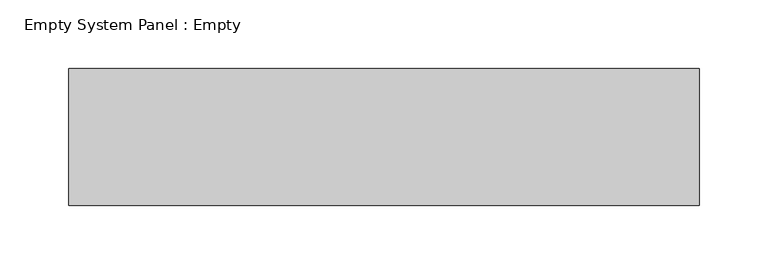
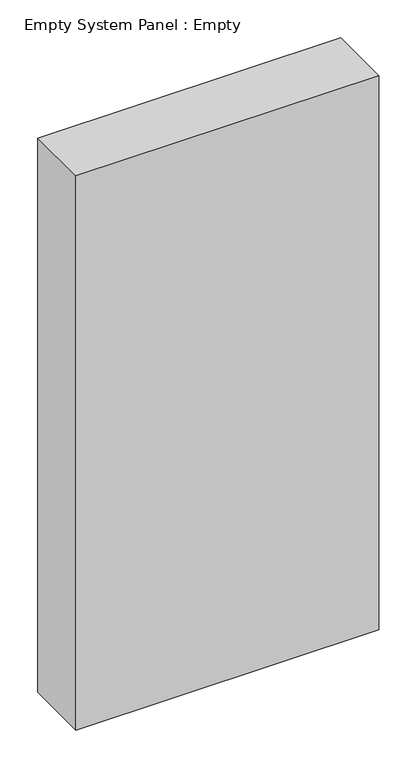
"""IFC4 building model written with IfcOpenShell, lengths in millimetres: plate geometry, Empty System Panel : Empty."""

from ifc_helpers import new_model, si_unit, origin, origin_with_axes, place, context, project, spatial, polyline, outline, extrude, source, transform, mapped, element, save


def empty_system_panel_empty_87de0121(model_context):
    return source(origin(), model_context, "Body", "SweptSolid", [
        extrude(outline(polyline([(230.0, -50.0), (-230.0, -50.0), (-230.0, 50.0), (230.0, 50.0), (230.0, -50.0)])), origin_with_axes(), (0.0, 0.0, 1.0), 890.0),
    ])


if __name__ == "__main__":
    model = new_model("IFC4")
    model_context = context("Model", 3, world=origin())
    ifc_project = project(units=[si_unit("LENGTHUNIT", "METRE", prefix="MILLI")], contexts=[model_context])
    site = spatial("IfcSite", under=ifc_project)
    building = spatial("IfcBuilding", under=site)
    placement = place(None, origin())
    empty_system_panel_empty_shape = empty_system_panel_empty_87de0121(model_context)
    element("IfcPlate", 1, ObjectType="Empty System Panel : Empty", at=placement, inside=building, context=model_context, shape_type="MappedRepresentation", body=[
        mapped(empty_system_panel_empty_shape, transform((0.0, 0.0, 0.0), x_axis=(1.0, 0.0, 0.0), y_axis=(0.0, 1.0, 0.0), z_axis=(0.0, 0.0, 1.0))),
    ])
    save(model, "model.ifc")
